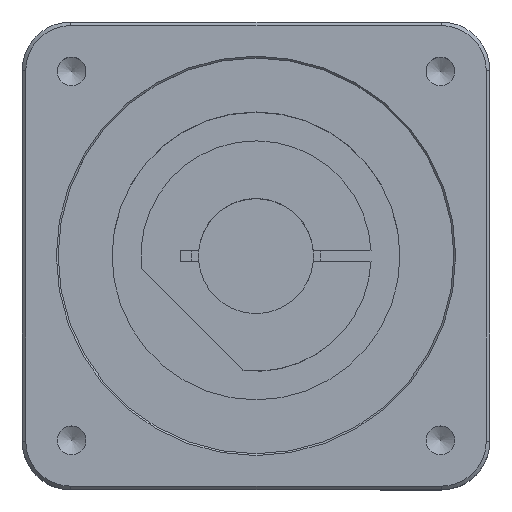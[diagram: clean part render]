
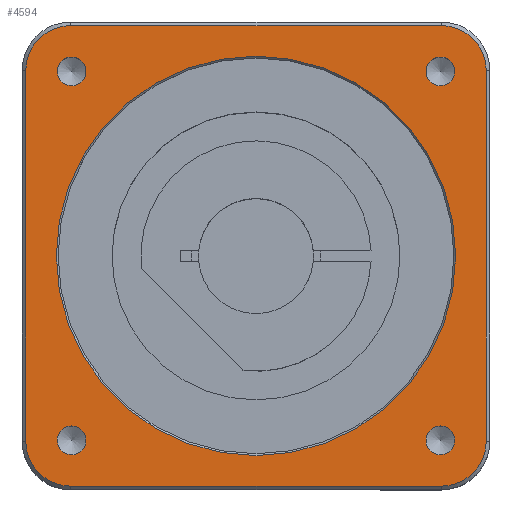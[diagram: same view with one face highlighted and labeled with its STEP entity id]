
A CAD part, top view. The second image highlights one B-rep face of the part: STEP entity #4594.
In plain terms, the highlighted planar face has unit normal (0, 0, 1).
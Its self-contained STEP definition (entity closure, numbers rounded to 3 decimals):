
#3681=CARTESIAN_POINT('',(51.265,47.265,42.0));
#3682=VERTEX_POINT('',#3681);
#3683=CARTESIAN_POINT('',(51.265,51.265,42.0));
#3684=DIRECTION('',(0.0,0.0,-1.0));
#3685=DIRECTION('',(0.0,-1.0,0.0));
#3686=AXIS2_PLACEMENT_3D('',#3683,#3684,#3685);
#3687=CIRCLE('',#3686,4.0);
#3688=EDGE_CURVE('',#3682,#3682,#3687,.T.);
#3760=CARTESIAN_POINT('',(47.265,-51.265,42.0));
#3761=VERTEX_POINT('',#3760);
#3762=CARTESIAN_POINT('',(51.265,-51.265,42.0));
#3763=DIRECTION('',(0.0,0.0,-1.0));
#3764=DIRECTION('',(-1.0,0.0,0.0));
#3765=AXIS2_PLACEMENT_3D('',#3762,#3763,#3764);
#3766=CIRCLE('',#3765,4.0);
#3767=EDGE_CURVE('',#3761,#3761,#3766,.T.);
#3839=CARTESIAN_POINT('',(-51.265,-47.265,42.0));
#3840=VERTEX_POINT('',#3839);
#3841=CARTESIAN_POINT('',(-51.265,-51.265,42.0));
#3842=DIRECTION('',(0.0,0.0,-1.0));
#3843=DIRECTION('',(0.0,1.0,0.0));
#3844=AXIS2_PLACEMENT_3D('',#3841,#3842,#3843);
#3845=CIRCLE('',#3844,4.0);
#3846=EDGE_CURVE('',#3840,#3840,#3845,.T.);
#3918=CARTESIAN_POINT('',(-47.265,51.265,42.0));
#3919=VERTEX_POINT('',#3918);
#3920=CARTESIAN_POINT('',(-51.265,51.265,42.0));
#3921=DIRECTION('',(0.0,0.0,-1.0));
#3922=DIRECTION('',(1.0,0.0,0.0));
#3923=AXIS2_PLACEMENT_3D('',#3920,#3921,#3922);
#3924=CIRCLE('',#3923,4.0);
#3925=EDGE_CURVE('',#3919,#3919,#3924,.T.);
#4337=CARTESIAN_POINT('',(-51.5,64.0,42.0));
#4338=VERTEX_POINT('',#4337);
#4345=CARTESIAN_POINT('',(51.5,64.0,42.0));
#4346=VERTEX_POINT('',#4345);
#4347=CARTESIAN_POINT('',(-51.5,64.0,42.0));
#4348=DIRECTION('',(1.0,0.0,0.0));
#4349=VECTOR('',#4348,103.0);
#4350=LINE('',#4347,#4349);
#4351=EDGE_CURVE('',#4338,#4346,#4350,.T.);
#4368=CARTESIAN_POINT('',(-64.0,51.5,42.0));
#4369=VERTEX_POINT('',#4368);
#4376=CARTESIAN_POINT('',(-51.5,51.5,42.0));
#4377=DIRECTION('',(0.0,0.0,-1.));
#4378=DIRECTION('',(-0.707,0.707,0.0));
#4379=AXIS2_PLACEMENT_3D('',#4376,#4377,#4378);
#4380=CIRCLE('',#4379,12.5);
#4381=EDGE_CURVE('',#4369,#4338,#4380,.T.);
#4393=CARTESIAN_POINT('',(64.0,51.5,42.0));
#4394=VERTEX_POINT('',#4393);
#4411=CARTESIAN_POINT('',(51.5,51.5,42.0));
#4412=DIRECTION('',(0.0,0.0,-1.));
#4413=DIRECTION('',(0.707,0.707,0.0));
#4414=AXIS2_PLACEMENT_3D('',#4411,#4412,#4413);
#4415=CIRCLE('',#4414,12.5);
#4416=EDGE_CURVE('',#4346,#4394,#4415,.T.);
#4426=CARTESIAN_POINT('',(-64.,-51.5,42.0));
#4427=VERTEX_POINT('',#4426);
#4434=CARTESIAN_POINT('',(-64.,-51.5,42.0));
#4435=DIRECTION('',(0.0,1.0,0.0));
#4436=VECTOR('',#4435,103.0);
#4437=LINE('',#4434,#4436);
#4438=EDGE_CURVE('',#4427,#4369,#4437,.T.);
#4450=CARTESIAN_POINT('',(64.0,-51.5,42.0));
#4451=VERTEX_POINT('',#4450);
#4467=CARTESIAN_POINT('',(64.0,51.5,42.0));
#4468=DIRECTION('',(0.0,-1.0,0.0));
#4469=VECTOR('',#4468,103.);
#4470=LINE('',#4467,#4469);
#4471=EDGE_CURVE('',#4394,#4451,#4470,.T.);
#4481=CARTESIAN_POINT('',(-51.5,-64.0,42.0));
#4482=VERTEX_POINT('',#4481);
#4489=CARTESIAN_POINT('',(-51.5,-51.5,42.0));
#4490=DIRECTION('',(0.0,0.0,-1.));
#4491=DIRECTION('',(-0.707,-0.707,0.0));
#4492=AXIS2_PLACEMENT_3D('',#4489,#4490,#4491);
#4493=CIRCLE('',#4492,12.5);
#4494=EDGE_CURVE('',#4482,#4427,#4493,.T.);
#4506=CARTESIAN_POINT('',(51.5,-64.,42.0));
#4507=VERTEX_POINT('',#4506);
#4524=CARTESIAN_POINT('',(51.5,-51.5,42.0));
#4525=DIRECTION('',(0.0,0.0,-1.));
#4526=DIRECTION('',(0.707,-0.707,0.0));
#4527=AXIS2_PLACEMENT_3D('',#4524,#4525,#4526);
#4528=CIRCLE('',#4527,12.5);
#4529=EDGE_CURVE('',#4451,#4507,#4528,.T.);
#4547=CARTESIAN_POINT('',(51.5,-64.,42.0));
#4548=DIRECTION('',(-1.0,0.0,0.0));
#4549=VECTOR('',#4548,103.);
#4550=LINE('',#4547,#4549);
#4551=EDGE_CURVE('',#4507,#4482,#4550,.T.);
#4556=CARTESIAN_POINT('',(0.0,0.,42.0));
#4557=DIRECTION('',(0.0,0.0,1.0));
#4558=DIRECTION('',(1.0,0.0,0.0));
#4559=AXIS2_PLACEMENT_3D('',#4556,#4557,#4558);
#4560=PLANE('',#4559);
#4561=ORIENTED_EDGE('',*,*,#4351,.F.);
#4562=ORIENTED_EDGE('',*,*,#4381,.F.);
#4563=ORIENTED_EDGE('',*,*,#4438,.F.);
#4564=ORIENTED_EDGE('',*,*,#4494,.F.);
#4565=ORIENTED_EDGE('',*,*,#4551,.F.);
#4566=ORIENTED_EDGE('',*,*,#4529,.F.);
#4567=ORIENTED_EDGE('',*,*,#4471,.F.);
#4568=ORIENTED_EDGE('',*,*,#4416,.F.);
#4569=EDGE_LOOP('',(#4561,#4562,#4563,#4564,#4565,#4566,#4567,#4568));
#4570=FACE_OUTER_BOUND('',#4569,.T.);
#4571=ORIENTED_EDGE('',*,*,#3688,.T.);
#4572=EDGE_LOOP('',(#4571));
#4573=FACE_BOUND('',#4572,.T.);
#4574=ORIENTED_EDGE('',*,*,#3767,.T.);
#4575=EDGE_LOOP('',(#4574));
#4576=FACE_BOUND('',#4575,.T.);
#4577=ORIENTED_EDGE('',*,*,#3846,.T.);
#4578=EDGE_LOOP('',(#4577));
#4579=FACE_BOUND('',#4578,.T.);
#4580=ORIENTED_EDGE('',*,*,#3925,.T.);
#4581=EDGE_LOOP('',(#4580));
#4582=FACE_BOUND('',#4581,.T.);
#4583=CARTESIAN_POINT('',(55.5,0.,42.0));
#4584=VERTEX_POINT('',#4583);
#4585=CARTESIAN_POINT('',(0.0,0.0,42.0));
#4586=DIRECTION('',(0.0,0.0,1.0));
#4587=DIRECTION('',(-1.0,0.0,0.0));
#4588=AXIS2_PLACEMENT_3D('',#4585,#4586,#4587);
#4589=CIRCLE('',#4588,55.5);
#4590=EDGE_CURVE('',#4584,#4584,#4589,.T.);
#4591=ORIENTED_EDGE('',*,*,#4590,.F.);
#4592=EDGE_LOOP('',(#4591));
#4593=FACE_BOUND('',#4592,.T.);
#4594=ADVANCED_FACE('',(#4570,#4573,#4576,#4579,#4582,#4593),#4560,.T.);
